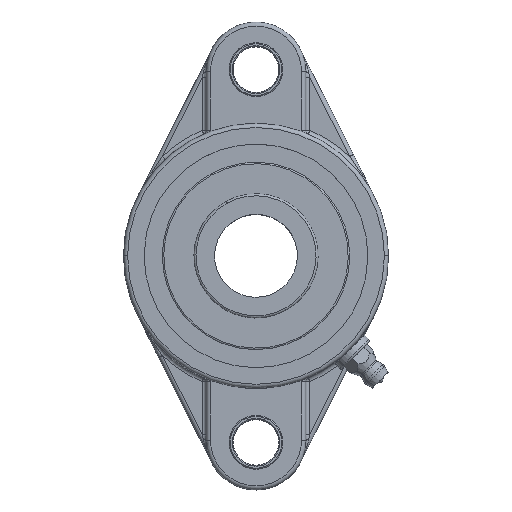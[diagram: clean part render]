
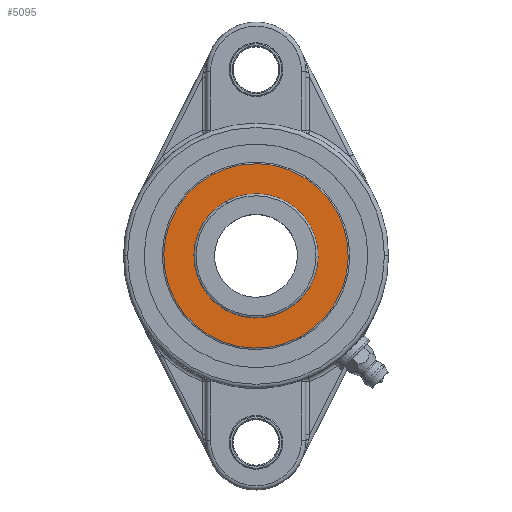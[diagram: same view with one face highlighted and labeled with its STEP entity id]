
A CAD part, top view. The second image highlights one B-rep face of the part: STEP entity #5095.
In plain terms, the highlighted planar face has unit normal (0, 0, 1) as drawn and (0, 1, 0) by its records, which use the part's own axes.
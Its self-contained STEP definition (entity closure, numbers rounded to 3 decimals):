
#4877=CARTESIAN_POINT('Vertex',(7.191,8.,13.164)) ;
#4880=CARTESIAN_POINT('Axis2P3D Location',(0.,8.,0.)) ;
#4884=CARTESIAN_POINT('Vertex',(-7.191,8.,-13.164)) ;
#4899=CARTESIAN_POINT('Axis2P3D Location',(0.,8.,0.)) ;
#4916=CARTESIAN_POINT('Axis2P3D Location',(0.,8.,0.)) ;
#4920=CARTESIAN_POINT('Vertex',(10.677,8.,19.545)) ;
#4922=CARTESIAN_POINT('Vertex',(-10.677,8.,-19.545)) ;
#4951=CARTESIAN_POINT('Axis2P3D Location',(0.,8.,0.)) ;
#5082=CARTESIAN_POINT('Axis2P3D Location',(0.,8.,22.271)) ;
#4881=DIRECTION('Axis2P3D Direction',(0.,1.,0.)) ;
#4900=DIRECTION('Axis2P3D Direction',(0.,1.,0.)) ;
#4917=DIRECTION('Axis2P3D Direction',(0.,1.,0.)) ;
#4952=DIRECTION('Axis2P3D Direction',(0.,1.,0.)) ;
#5083=DIRECTION('Axis2P3D Direction',(0.,1.,0.)) ;
#5084=DIRECTION('Axis2P3D XDirection',(1.,-0.,0.)) ;
#4882=AXIS2_PLACEMENT_3D('Circle Axis2P3D',#4880,#4881,$) ;
#4901=AXIS2_PLACEMENT_3D('Circle Axis2P3D',#4899,#4900,$) ;
#4918=AXIS2_PLACEMENT_3D('Circle Axis2P3D',#4916,#4917,$) ;
#4953=AXIS2_PLACEMENT_3D('Circle Axis2P3D',#4951,#4952,$) ;
#5085=AXIS2_PLACEMENT_3D('Plane Axis2P3D',#5082,#5083,#5084) ;
#5088=ORIENTED_EDGE('',*,*,#4955,.T.) ;
#5089=ORIENTED_EDGE('',*,*,#4924,.T.) ;
#5092=ORIENTED_EDGE('',*,*,#4886,.F.) ;
#5093=ORIENTED_EDGE('',*,*,#4903,.F.) ;
#5094=FACE_BOUND('',#5091,.T.) ;
#5095=ADVANCED_FACE('PartBody',(#5090,#5094),#5086,.T.) ;
#4883=CIRCLE('generated circle',#4882,15.) ;
#4902=CIRCLE('generated circle',#4901,15.) ;
#4919=CIRCLE('generated circle',#4918,22.271) ;
#4954=CIRCLE('generated circle',#4953,22.271) ;
#4886=EDGE_CURVE('',#4878,#4885,#4883,.T.) ;
#4903=EDGE_CURVE('',#4885,#4878,#4902,.T.) ;
#4924=EDGE_CURVE('',#4921,#4923,#4919,.T.) ;
#4955=EDGE_CURVE('',#4923,#4921,#4954,.T.) ;
#5087=EDGE_LOOP('',(#5088,#5089)) ;
#5091=EDGE_LOOP('',(#5092,#5093)) ;
#5090=FACE_OUTER_BOUND('',#5087,.T.) ;
#5086=PLANE('',#5085) ;
#4878=VERTEX_POINT('',#4877) ;
#4885=VERTEX_POINT('',#4884) ;
#4921=VERTEX_POINT('',#4920) ;
#4923=VERTEX_POINT('',#4922) ;
